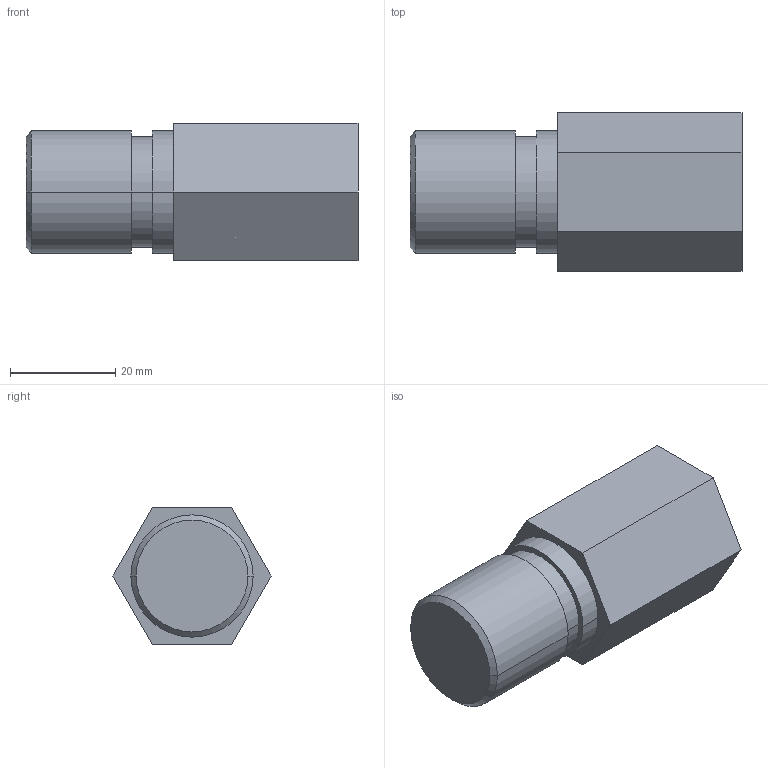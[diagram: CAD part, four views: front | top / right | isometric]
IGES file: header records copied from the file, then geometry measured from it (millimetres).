
Global section: file name: No Iges File Name specified; native system: Autodesk Inventor 2009; preprocessor: AutoDesk Inventor Iges Exporter R2009; author: y-shimohigashi; date: 20080702.095332; units: millimetre
Bounding box: 63 x 30.02 x 26 mm (x, y, z)
Volume: 26169.8 mm3; surface area: 7525.3 mm2
Topology: 1 solids, 1 shells, 22 faces, 46 edges, 30 vertices
Faces by surface type: plane 12, cylinder 6, cone 2, revolution 2
